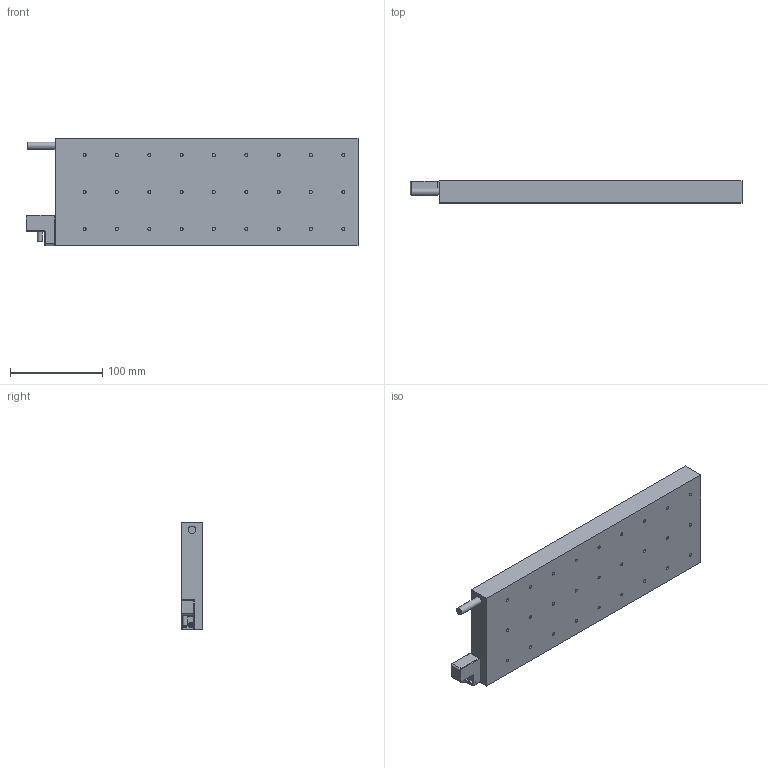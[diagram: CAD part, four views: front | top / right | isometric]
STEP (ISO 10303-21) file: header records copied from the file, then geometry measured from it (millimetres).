
FILE_DESCRIPTION( ( 'Unknown' ), '1' );
FILE_NAME( 'C:/Users/gyt/Desktop/DPD116C4.stp', 'Unknown', ( 'Unknown' ), ( 'Unknown' ), 'PSStep 17.0.49', 'Unknown', ' ' );
FILE_SCHEMA( ( 'AUTOMOTIVE_DESIGN { 1 0 10303 214 1 1 1 1 }' ) );
Length unit declared in the file: millimetre
Products named in the file (1): 霍尔支架
Bounding box: 359.4 x 23.7 x 116 mm (x, y, z)
Volume: 912021 mm3; surface area: 102623.4 mm2
Topology: 1 solids, 2 shells, 119 faces, 213 edges, 134 vertices
Faces by surface type: plane 62, cylinder 43, cone 14
Full cylindrical faces by diameter (mm): 1.567 x1, 2.459 x2, 3.242 x27, 3.6 x2, 5 x1, 6 x2, 6.2 x1, 8 x1
Entity records: 3642 total; most frequent: DIRECTION 510, CARTESIAN_POINT 423, ORIENTED_EDGE 342, AXIS2_PLACEMENT_3D 219, EDGE_LOOP 194, EDGE_CURVE 171, FACE_OUTER_BOUND 156, VERTEX_POINT 132
